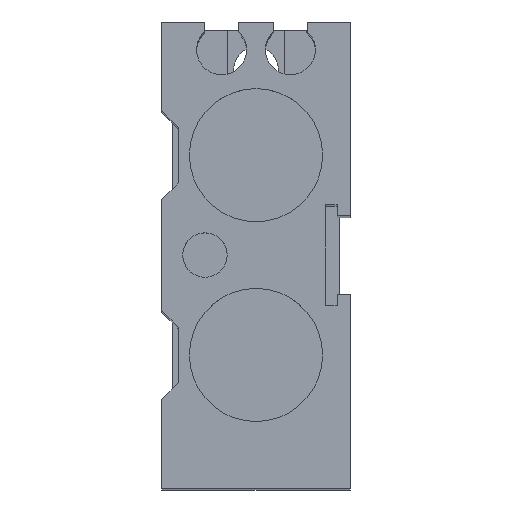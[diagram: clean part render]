
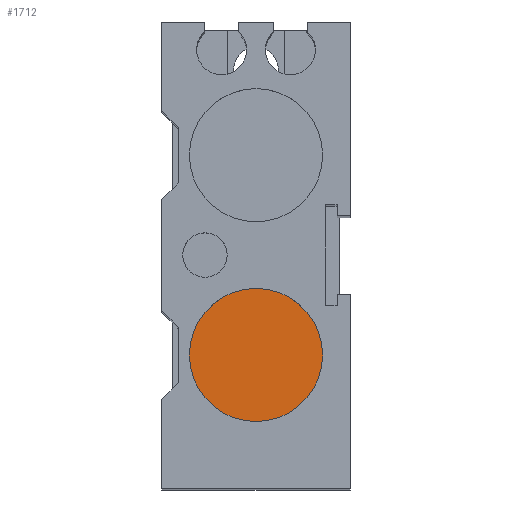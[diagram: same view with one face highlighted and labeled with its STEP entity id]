
A CAD part, top view. The second image highlights one B-rep face of the part: STEP entity #1712.
In plain terms, the highlighted planar face has unit normal (0, 0, 1).
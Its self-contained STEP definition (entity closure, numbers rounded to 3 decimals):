
#1681=CARTESIAN_POINT('',(6.,-9.,158.0));
#1682=VERTEX_POINT('',#1681);
#1683=CARTESIAN_POINT('',(0.,-9.0,158.0));
#1684=DIRECTION('',(0.0,0.0,1.0));
#1685=DIRECTION('',(-1.0,0.0,0.0));
#1686=AXIS2_PLACEMENT_3D('',#1683,#1684,#1685);
#1687=CIRCLE('',#1686,6.);
#1688=EDGE_CURVE('',#1682,#1682,#1687,.T.);
#1704=CARTESIAN_POINT('',(0.,-9.0,158.0));
#1705=DIRECTION('',(0.0,0.0,-1.0));
#1706=DIRECTION('',(-1.0,0.0,0.0));
#1707=AXIS2_PLACEMENT_3D('',#1704,#1705,#1706);
#1708=PLANE('',#1707);
#1709=ORIENTED_EDGE('',*,*,#1688,.T.);
#1710=EDGE_LOOP('',(#1709));
#1711=FACE_OUTER_BOUND('',#1710,.T.);
#1712=ADVANCED_FACE('',(#1711),#1708,.F.);
